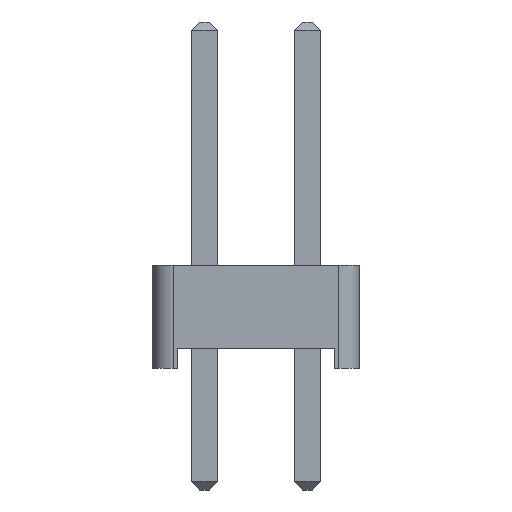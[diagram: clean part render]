
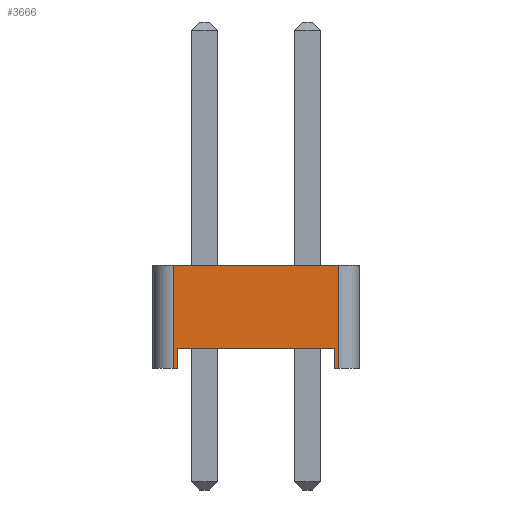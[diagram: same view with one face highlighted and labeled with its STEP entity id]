
A CAD part, left-side view. The second image highlights one B-rep face of the part: STEP entity #3666.
In plain terms, the highlighted planar face has unit normal (-1, 0, 0).
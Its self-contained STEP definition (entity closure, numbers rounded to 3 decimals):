
#3406 = VERTEX_POINT('',#3407);
#3407 = CARTESIAN_POINT('',(-1.27,2.04,0.));
#3415 = PLANE('',#3416);
#3416 = AXIS2_PLACEMENT_3D('',#3417,#3418,#3419);
#3417 = CARTESIAN_POINT('',(0.,0.,0.));
#3418 = DIRECTION('',(-0.,-0.,-1.));
#3419 = DIRECTION('',(-1.,0.,0.));
#3431 = CYLINDRICAL_SURFACE('',#3432,0.5);
#3432 = AXIS2_PLACEMENT_3D('',#3433,#3434,#3435);
#3433 = CARTESIAN_POINT('',(-0.77,2.04,0.));
#3434 = DIRECTION('',(0.,0.,1.));
#3435 = DIRECTION('',(0.,1.,0.));
#3533 = VERTEX_POINT('',#3534);
#3534 = CARTESIAN_POINT('',(-1.27,1.94,0.));
#3548 = PLANE('',#3549);
#3549 = AXIS2_PLACEMENT_3D('',#3550,#3551,#3552);
#3550 = CARTESIAN_POINT('',(1.27,1.94,0.));
#3551 = DIRECTION('',(0.,-1.,0.));
#3552 = DIRECTION('',(-1.,0.,0.));
#3560 = EDGE_CURVE('',#3533,#3406,#3561,.T.);
#3561 = SURFACE_CURVE('',#3562,(#3566,#3573),.PCURVE_S1.);
#3562 = LINE('',#3563,#3564);
#3563 = CARTESIAN_POINT('',(-1.27,-2.54,0.));
#3564 = VECTOR('',#3565,1.);
#3565 = DIRECTION('',(0.,1.,0.));
#3566 = PCURVE('',#3415,#3567);
#3567 = DEFINITIONAL_REPRESENTATION('',(#3568),#3572);
#3568 = LINE('',#3569,#3570);
#3569 = CARTESIAN_POINT('',(1.27,-2.54));
#3570 = VECTOR('',#3571,1.);
#3571 = DIRECTION('',(0.,1.));
#3572 = ( GEOMETRIC_REPRESENTATION_CONTEXT(2) 
PARAMETRIC_REPRESENTATION_CONTEXT() REPRESENTATION_CONTEXT('2D SPACE',''
  ) );
#3573 = PCURVE('',#3574,#3579);
#3574 = PLANE('',#3575);
#3575 = AXIS2_PLACEMENT_3D('',#3576,#3577,#3578);
#3576 = CARTESIAN_POINT('',(-1.27,-2.54,0.));
#3577 = DIRECTION('',(-1.,0.,0.));
#3578 = DIRECTION('',(0.,1.,0.));
#3579 = DEFINITIONAL_REPRESENTATION('',(#3580),#3584);
#3580 = LINE('',#3581,#3582);
#3581 = CARTESIAN_POINT('',(0.,0.));
#3582 = VECTOR('',#3583,1.);
#3583 = DIRECTION('',(1.,0.));
#3584 = ( GEOMETRIC_REPRESENTATION_CONTEXT(2) 
PARAMETRIC_REPRESENTATION_CONTEXT() REPRESENTATION_CONTEXT('2D SPACE',''
  ) );
#3590 = EDGE_CURVE('',#3406,#3591,#3593,.T.);
#3591 = VERTEX_POINT('',#3592);
#3592 = CARTESIAN_POINT('',(-1.27,2.04,2.54));
#3593 = SURFACE_CURVE('',#3594,(#3598,#3605),.PCURVE_S1.);
#3594 = LINE('',#3595,#3596);
#3595 = CARTESIAN_POINT('',(-1.27,2.04,0.));
#3596 = VECTOR('',#3597,1.);
#3597 = DIRECTION('',(0.,0.,1.));
#3598 = PCURVE('',#3431,#3599);
#3599 = DEFINITIONAL_REPRESENTATION('',(#3600),#3604);
#3600 = LINE('',#3601,#3602);
#3601 = CARTESIAN_POINT('',(1.571,0.));
#3602 = VECTOR('',#3603,1.);
#3603 = DIRECTION('',(0.,1.));
#3604 = ( GEOMETRIC_REPRESENTATION_CONTEXT(2) 
PARAMETRIC_REPRESENTATION_CONTEXT() REPRESENTATION_CONTEXT('2D SPACE',''
  ) );
#3605 = PCURVE('',#3574,#3606);
#3606 = DEFINITIONAL_REPRESENTATION('',(#3607),#3611);
#3607 = LINE('',#3608,#3609);
#3608 = CARTESIAN_POINT('',(4.58,0.));
#3609 = VECTOR('',#3610,1.);
#3610 = DIRECTION('',(0.,-1.));
#3611 = ( GEOMETRIC_REPRESENTATION_CONTEXT(2) 
PARAMETRIC_REPRESENTATION_CONTEXT() REPRESENTATION_CONTEXT('2D SPACE',''
  ) );
#3630 = PLANE('',#3631);
#3631 = AXIS2_PLACEMENT_3D('',#3632,#3633,#3634);
#3632 = CARTESIAN_POINT('',(0.,0.,2.54));
#3633 = DIRECTION('',(-0.,-0.,-1.));
#3634 = DIRECTION('',(-1.,0.,0.));
#3666 = ADVANCED_FACE('',(#3667),#3574,.T.);
#3667 = FACE_BOUND('',#3668,.T.);
#3668 = EDGE_LOOP('',(#3669,#3699,#3727,#3748,#3749,#3750,#3773,#3801));
#3669 = ORIENTED_EDGE('',*,*,#3670,.F.);
#3670 = EDGE_CURVE('',#3671,#3673,#3675,.T.);
#3671 = VERTEX_POINT('',#3672);
#3672 = CARTESIAN_POINT('',(-1.27,-2.04,0.));
#3673 = VERTEX_POINT('',#3674);
#3674 = CARTESIAN_POINT('',(-1.27,-1.94,0.));
#3675 = SURFACE_CURVE('',#3676,(#3680,#3687),.PCURVE_S1.);
#3676 = LINE('',#3677,#3678);
#3677 = CARTESIAN_POINT('',(-1.27,-2.54,0.));
#3678 = VECTOR('',#3679,1.);
#3679 = DIRECTION('',(0.,1.,0.));
#3680 = PCURVE('',#3574,#3681);
#3681 = DEFINITIONAL_REPRESENTATION('',(#3682),#3686);
#3682 = LINE('',#3683,#3684);
#3683 = CARTESIAN_POINT('',(0.,0.));
#3684 = VECTOR('',#3685,1.);
#3685 = DIRECTION('',(1.,0.));
#3686 = ( GEOMETRIC_REPRESENTATION_CONTEXT(2) 
PARAMETRIC_REPRESENTATION_CONTEXT() REPRESENTATION_CONTEXT('2D SPACE',''
  ) );
#3687 = PCURVE('',#3688,#3693);
#3688 = PLANE('',#3689);
#3689 = AXIS2_PLACEMENT_3D('',#3690,#3691,#3692);
#3690 = CARTESIAN_POINT('',(0.,0.,0.));
#3691 = DIRECTION('',(-0.,-0.,-1.));
#3692 = DIRECTION('',(-1.,0.,0.));
#3693 = DEFINITIONAL_REPRESENTATION('',(#3694),#3698);
#3694 = LINE('',#3695,#3696);
#3695 = CARTESIAN_POINT('',(1.27,-2.54));
#3696 = VECTOR('',#3697,1.);
#3697 = DIRECTION('',(0.,1.));
#3698 = ( GEOMETRIC_REPRESENTATION_CONTEXT(2) 
PARAMETRIC_REPRESENTATION_CONTEXT() REPRESENTATION_CONTEXT('2D SPACE',''
  ) );
#3699 = ORIENTED_EDGE('',*,*,#3700,.T.);
#3700 = EDGE_CURVE('',#3671,#3701,#3703,.T.);
#3701 = VERTEX_POINT('',#3702);
#3702 = CARTESIAN_POINT('',(-1.27,-2.04,2.54));
#3703 = SURFACE_CURVE('',#3704,(#3708,#3715),.PCURVE_S1.);
#3704 = LINE('',#3705,#3706);
#3705 = CARTESIAN_POINT('',(-1.27,-2.04,0.));
#3706 = VECTOR('',#3707,1.);
#3707 = DIRECTION('',(0.,0.,1.));
#3708 = PCURVE('',#3574,#3709);
#3709 = DEFINITIONAL_REPRESENTATION('',(#3710),#3714);
#3710 = LINE('',#3711,#3712);
#3711 = CARTESIAN_POINT('',(0.5,0.));
#3712 = VECTOR('',#3713,1.);
#3713 = DIRECTION('',(0.,-1.));
#3714 = ( GEOMETRIC_REPRESENTATION_CONTEXT(2) 
PARAMETRIC_REPRESENTATION_CONTEXT() REPRESENTATION_CONTEXT('2D SPACE',''
  ) );
#3715 = PCURVE('',#3716,#3721);
#3716 = CYLINDRICAL_SURFACE('',#3717,0.5);
#3717 = AXIS2_PLACEMENT_3D('',#3718,#3719,#3720);
#3718 = CARTESIAN_POINT('',(-0.77,-2.04,0.));
#3719 = DIRECTION('',(0.,0.,1.));
#3720 = DIRECTION('',(0.,-1.,0.));
#3721 = DEFINITIONAL_REPRESENTATION('',(#3722),#3726);
#3722 = LINE('',#3723,#3724);
#3723 = CARTESIAN_POINT('',(-1.571,0.));
#3724 = VECTOR('',#3725,1.);
#3725 = DIRECTION('',(-0.,1.));
#3726 = ( GEOMETRIC_REPRESENTATION_CONTEXT(2) 
PARAMETRIC_REPRESENTATION_CONTEXT() REPRESENTATION_CONTEXT('2D SPACE',''
  ) );
#3727 = ORIENTED_EDGE('',*,*,#3728,.T.);
#3728 = EDGE_CURVE('',#3701,#3591,#3729,.T.);
#3729 = SURFACE_CURVE('',#3730,(#3734,#3741),.PCURVE_S1.);
#3730 = LINE('',#3731,#3732);
#3731 = CARTESIAN_POINT('',(-1.27,-2.54,2.54));
#3732 = VECTOR('',#3733,1.);
#3733 = DIRECTION('',(0.,1.,0.));
#3734 = PCURVE('',#3574,#3735);
#3735 = DEFINITIONAL_REPRESENTATION('',(#3736),#3740);
#3736 = LINE('',#3737,#3738);
#3737 = CARTESIAN_POINT('',(0.,-2.54));
#3738 = VECTOR('',#3739,1.);
#3739 = DIRECTION('',(1.,0.));
#3740 = ( GEOMETRIC_REPRESENTATION_CONTEXT(2) 
PARAMETRIC_REPRESENTATION_CONTEXT() REPRESENTATION_CONTEXT('2D SPACE',''
  ) );
#3741 = PCURVE('',#3630,#3742);
#3742 = DEFINITIONAL_REPRESENTATION('',(#3743),#3747);
#3743 = LINE('',#3744,#3745);
#3744 = CARTESIAN_POINT('',(1.27,-2.54));
#3745 = VECTOR('',#3746,1.);
#3746 = DIRECTION('',(0.,1.));
#3747 = ( GEOMETRIC_REPRESENTATION_CONTEXT(2) 
PARAMETRIC_REPRESENTATION_CONTEXT() REPRESENTATION_CONTEXT('2D SPACE',''
  ) );
#3748 = ORIENTED_EDGE('',*,*,#3590,.F.);
#3749 = ORIENTED_EDGE('',*,*,#3560,.F.);
#3750 = ORIENTED_EDGE('',*,*,#3751,.T.);
#3751 = EDGE_CURVE('',#3533,#3752,#3754,.T.);
#3752 = VERTEX_POINT('',#3753);
#3753 = CARTESIAN_POINT('',(-1.27,1.94,0.5));
#3754 = SURFACE_CURVE('',#3755,(#3759,#3766),.PCURVE_S1.);
#3755 = LINE('',#3756,#3757);
#3756 = CARTESIAN_POINT('',(-1.27,1.94,0.));
#3757 = VECTOR('',#3758,1.);
#3758 = DIRECTION('',(0.,0.,1.));
#3759 = PCURVE('',#3574,#3760);
#3760 = DEFINITIONAL_REPRESENTATION('',(#3761),#3765);
#3761 = LINE('',#3762,#3763);
#3762 = CARTESIAN_POINT('',(4.48,0.));
#3763 = VECTOR('',#3764,1.);
#3764 = DIRECTION('',(0.,-1.));
#3765 = ( GEOMETRIC_REPRESENTATION_CONTEXT(2) 
PARAMETRIC_REPRESENTATION_CONTEXT() REPRESENTATION_CONTEXT('2D SPACE',''
  ) );
#3766 = PCURVE('',#3548,#3767);
#3767 = DEFINITIONAL_REPRESENTATION('',(#3768),#3772);
#3768 = LINE('',#3769,#3770);
#3769 = CARTESIAN_POINT('',(2.54,0.));
#3770 = VECTOR('',#3771,1.);
#3771 = DIRECTION('',(0.,-1.));
#3772 = ( GEOMETRIC_REPRESENTATION_CONTEXT(2) 
PARAMETRIC_REPRESENTATION_CONTEXT() REPRESENTATION_CONTEXT('2D SPACE',''
  ) );
#3773 = ORIENTED_EDGE('',*,*,#3774,.T.);
#3774 = EDGE_CURVE('',#3752,#3775,#3777,.T.);
#3775 = VERTEX_POINT('',#3776);
#3776 = CARTESIAN_POINT('',(-1.27,-1.94,0.5));
#3777 = SURFACE_CURVE('',#3778,(#3782,#3789),.PCURVE_S1.);
#3778 = LINE('',#3779,#3780);
#3779 = CARTESIAN_POINT('',(-1.27,1.94,0.5));
#3780 = VECTOR('',#3781,1.);
#3781 = DIRECTION('',(0.,-1.,0.));
#3782 = PCURVE('',#3574,#3783);
#3783 = DEFINITIONAL_REPRESENTATION('',(#3784),#3788);
#3784 = LINE('',#3785,#3786);
#3785 = CARTESIAN_POINT('',(4.48,-0.5));
#3786 = VECTOR('',#3787,1.);
#3787 = DIRECTION('',(-1.,0.));
#3788 = ( GEOMETRIC_REPRESENTATION_CONTEXT(2) 
PARAMETRIC_REPRESENTATION_CONTEXT() REPRESENTATION_CONTEXT('2D SPACE',''
  ) );
#3789 = PCURVE('',#3790,#3795);
#3790 = PLANE('',#3791);
#3791 = AXIS2_PLACEMENT_3D('',#3792,#3793,#3794);
#3792 = CARTESIAN_POINT('',(0.,0.,0.5));
#3793 = DIRECTION('',(0.,0.,1.));
#3794 = DIRECTION('',(1.,0.,0.));
#3795 = DEFINITIONAL_REPRESENTATION('',(#3796),#3800);
#3796 = LINE('',#3797,#3798);
#3797 = CARTESIAN_POINT('',(-1.27,1.94));
#3798 = VECTOR('',#3799,1.);
#3799 = DIRECTION('',(0.,-1.));
#3800 = ( GEOMETRIC_REPRESENTATION_CONTEXT(2) 
PARAMETRIC_REPRESENTATION_CONTEXT() REPRESENTATION_CONTEXT('2D SPACE',''
  ) );
#3801 = ORIENTED_EDGE('',*,*,#3802,.F.);
#3802 = EDGE_CURVE('',#3673,#3775,#3803,.T.);
#3803 = SURFACE_CURVE('',#3804,(#3808,#3815),.PCURVE_S1.);
#3804 = LINE('',#3805,#3806);
#3805 = CARTESIAN_POINT('',(-1.27,-1.94,0.));
#3806 = VECTOR('',#3807,1.);
#3807 = DIRECTION('',(0.,0.,1.));
#3808 = PCURVE('',#3574,#3809);
#3809 = DEFINITIONAL_REPRESENTATION('',(#3810),#3814);
#3810 = LINE('',#3811,#3812);
#3811 = CARTESIAN_POINT('',(0.6,0.));
#3812 = VECTOR('',#3813,1.);
#3813 = DIRECTION('',(0.,-1.));
#3814 = ( GEOMETRIC_REPRESENTATION_CONTEXT(2) 
PARAMETRIC_REPRESENTATION_CONTEXT() REPRESENTATION_CONTEXT('2D SPACE',''
  ) );
#3815 = PCURVE('',#3816,#3821);
#3816 = PLANE('',#3817);
#3817 = AXIS2_PLACEMENT_3D('',#3818,#3819,#3820);
#3818 = CARTESIAN_POINT('',(-1.27,-1.94,0.));
#3819 = DIRECTION('',(0.,1.,0.));
#3820 = DIRECTION('',(1.,0.,0.));
#3821 = DEFINITIONAL_REPRESENTATION('',(#3822),#3826);
#3822 = LINE('',#3823,#3824);
#3823 = CARTESIAN_POINT('',(0.,0.));
#3824 = VECTOR('',#3825,1.);
#3825 = DIRECTION('',(0.,-1.));
#3826 = ( GEOMETRIC_REPRESENTATION_CONTEXT(2) 
PARAMETRIC_REPRESENTATION_CONTEXT() REPRESENTATION_CONTEXT('2D SPACE',''
  ) );
